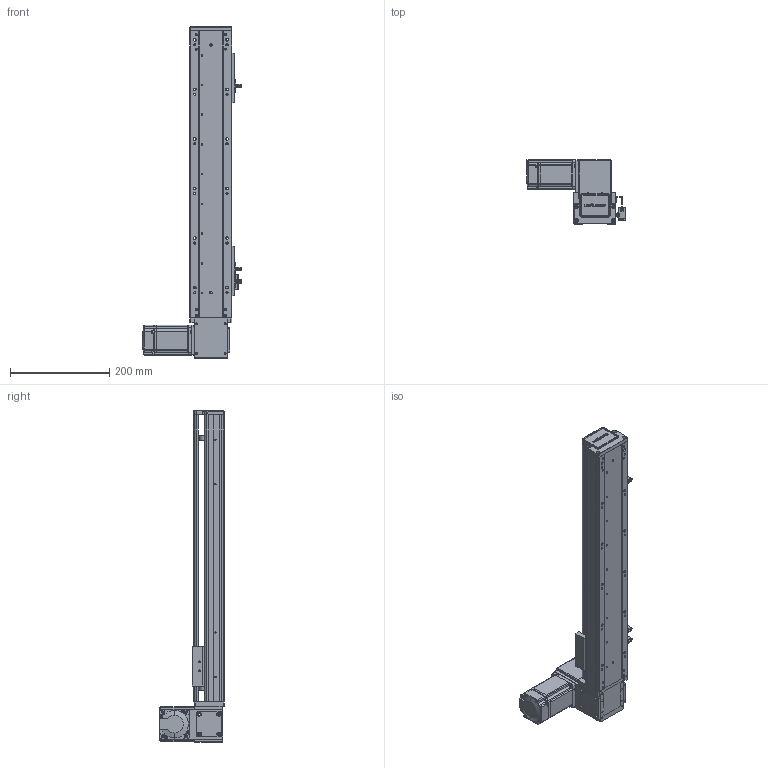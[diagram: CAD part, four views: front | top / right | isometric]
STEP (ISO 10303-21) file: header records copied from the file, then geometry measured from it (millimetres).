
FILE_DESCRIPTION (( 'STEP AP203' ), '1' );
FILE_NAME ('RY80-T-300-UL.SLDASM_400.step', '2021-03-01T02:16:21', ( '盈信电脑' ), ( '东莞市道滘镇水果街19号' ), 'SwSTEP 2.0', 'SolidWorks 2012', '' );
FILE_SCHEMA (( 'CONFIG_CONTROL_DESIGN' ));
Products named in the file (19): RY80-T粣創揤踡輸; RY80-T-上下折同步轮盖板; RY80-T-300-UL.SLDASM_400; 1; RY80-T肮祭謫奻殏俋欶; RY80-T-M4蹟翐2; RY80-T翋肮祭謫裔啣; 滅袉蝶18-10; RY80-T肮祭湍揤輸2; RY80-T萇儂假蚾啣; RY80-T肮祭湍揤輸1; 672嫖萇羲壽假蚾釱; RY80俋离覜茼え; RY80-T-翋肮祭謫釱; 覜茼ん672; RY80-T肮祭謫臏賑輸; RY80-T-300-UL倰第奻裔啣_400; RY80-T綴裔啣; RY80-T-300-UL倰第菁釱_400
Assembly tree (24 placements, depth 2):
  RY80-T-300-UL.SLDASM_400
    RY80-T-300-UL倰第菁釱_400
    RY80-T肮祭謫臏賑輸
    RY80-T-300-UL倰第奻裔啣_400
    RY80-T綴裔啣
    672嫖萇羲壽假蚾釱  x2
    覜茼ん672  x3
    RY80俋离覜茼え
    RY80-T-翋肮祭謫釱
    RY80-T肮祭湍揤輸1
    RY80-T肮祭湍揤輸2
    RY80-T萇儂假蚾啣
    RY80-T粣創揤踡輸  x2
    滅袉蝶18-10  x2
    RY80-T翋肮祭謫裔啣
    1
    RY80-T肮祭謫奻殏俋欶
    RY80-T-M4蹟翐2  x2
    RY80-T-上下折同步轮盖板
Bounding box: 198.7 x 130.5 x 670 mm (x, y, z)
Volume: 1415673.1 mm3; surface area: 568419.3 mm2
Topology: 24 solids, 24 shells, 2457 faces, 6745 edges, 4379 vertices
Faces by surface type: plane 1341, cylinder 913, cone 147, bspline 56
Entity records: 76067 total; most frequent: CARTESIAN_POINT 18091, ORIENTED_EDGE 11874, DIRECTION 11208, EDGE_CURVE 5937, VERTEX_POINT 3900, AXIS2_PLACEMENT_3D 3745, VECTOR 3718, LINE 3718
